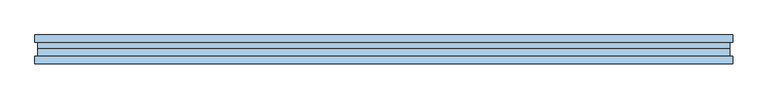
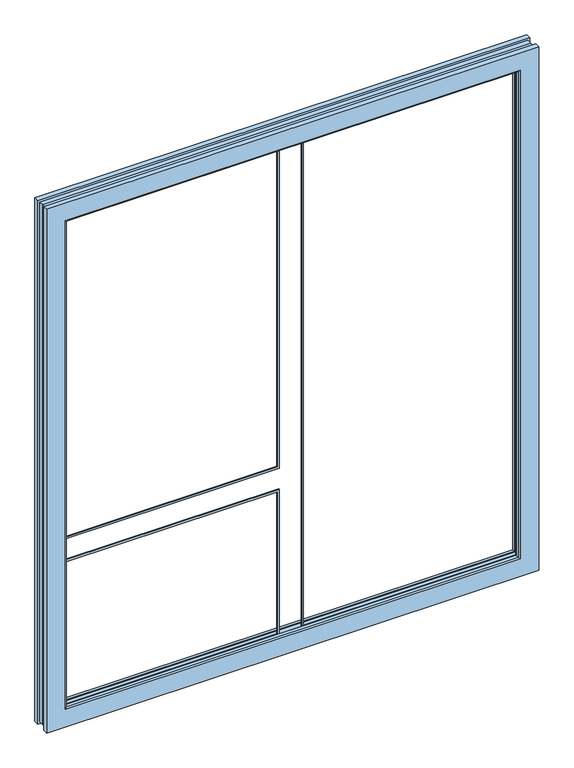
"""IFC4 building model written with IfcOpenShell, lengths in millimetres: window geometry, windowss9000gealanturntiltwindowsublightfixedwindow : windowss9000 2.00 x 2.25."""

from ifc_helpers import new_model, si_unit, frame, origin, place, context, project, spatial, polyline, ellipse_curve, outline, extrude, faceted_brep, source, transform, mapped, element, save
from ifc_brep_helpers import plane_surface, cylinder_surface, advanced_brep


def window_c5311feb(model_context):
    return source(origin(), model_context, "Body", "SolidModel", [
        advanced_brep(
        [(916.0, -106.02771, 3006.0), (916.0, -106.02771, 924.0), (918.5522708, -115.5529143, 921.4477292), (918.5522708, -115.5529143, 3008.5522708), (916.0, -105.0, 3006.0), (916.0, -105.0, 924.0), (946.1, -90.9886714, 3036.1), (946.1, -90.9886714, 893.9), (949.0781998, -105.0, 890.9218002), (949.0781998, -105.0, 3039.0781998), (946.1, -77.5, 3036.1), (946.1, -77.5, 893.9), (992.0, -99.0, 3082.0), (992.0, -99.0, 848.0), (992.0, -77.5, 848.0), (992.0, -77.5, 3082.0), (1000.0, -120.0, 3090.0), (1000.0, -120.0, 840.0), (1000.0, -99.0, 840.0), (1000.0, -99.0, 3090.0), (924.3478258, -120.0, 915.6521742), (924.3478258, -120.0, 3014.3478258), (-916.0, -106.02771, 924.0), (-918.5522708, -115.5529143, 921.4477292), (-916.0, -105.0, 924.0), (-946.1, -90.9886714, 893.9), (-949.0781998, -105.0, 890.9218002), (-946.1, -77.5, 893.9), (-992.0, -99.0, 848.0), (-992.0, -77.5, 848.0), (-1000.0, -120.0, 840.0), (-1000.0, -99.0, 840.0), (-924.3478258, -120.0, 915.6521742), (-916.0, -106.02771, 3006.0), (-918.5522708, -115.5529143, 3008.5522708), (-916.0, -105.0, 3006.0), (-946.1, -90.9886714, 3036.1), (-949.0781998, -105.0, 3039.0781998), (-946.1, -77.5, 3036.1), (-992.0, -99.0, 3082.0), (-992.0, -77.5, 3082.0), (-1000.0, -120.0, 3090.0), (-1000.0, -99.0, 3090.0), (-924.3478258, -120.0, 3014.3478258)],
        [
            (0, 1),
            (1, 2),
            (2, 3),
            (3, 0),
            (4, 5),
            (5, 1),
            (0, 4),
            (6, 7),
            (7, 8),
            (8, 9),
            (9, 6),
            (10, 11),
            (11, 7),
            (6, 10),
            (12, 13),
            (13, 14),
            (14, 15),
            (15, 12),
            (16, 17),
            (17, 18),
            (18, 19),
            (19, 16),
            (2, 20, ellipse_curve(frame((924.3478258, -114.0, 915.6521742), z_axis=(0.7071067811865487, 0.0, 0.7071067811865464), x_axis=(-0.7071067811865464, 0.0, 0.7071067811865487)), 8.4852814, 6.0)),
            (20, 21),
            (21, 3, ellipse_curve(frame((924.3478258, -114.0, 3014.3478258), z_axis=(0.7071067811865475, 0.0, -0.7071067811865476), x_axis=(0.7071067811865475, 0.0, 0.7071067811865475)), 8.4852814, 6.0)),
            (1, 22),
            (22, 23),
            (23, 2),
            (5, 24),
            (24, 22),
            (7, 25),
            (25, 26),
            (26, 8),
            (11, 27),
            (27, 25),
            (13, 28),
            (28, 29),
            (29, 14),
            (17, 30),
            (30, 31),
            (31, 18),
            (23, 32, ellipse_curve(frame((-924.3478258, -114.0, 915.6521742), z_axis=(0.7071067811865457, 0.0, -0.7071067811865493), x_axis=(0.7071067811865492, 0.0, 0.7071067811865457)), 8.4852814, 6.0)),
            (32, 20),
            (22, 33),
            (33, 34),
            (34, 23),
            (24, 35),
            (35, 33),
            (25, 36),
            (36, 37),
            (37, 26),
            (27, 38),
            (38, 36),
            (28, 39),
            (39, 40),
            (40, 29),
            (30, 41),
            (41, 42),
            (42, 31),
            (34, 43, ellipse_curve(frame((-924.3478258, -114.0, 3014.3478258), z_axis=(-0.7071067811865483, 0.0, -0.7071067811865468), x_axis=(0.7071067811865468, 0.0, -0.7071067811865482)), 8.4852814, 6.0)),
            (43, 32),
            (33, 0),
            (3, 34),
            (35, 4),
            (37, 9),
            (36, 6),
            (38, 10),
            (40, 15),
            (39, 12),
            (42, 19),
            (41, 16),
            (43, 21),
        ],
        [
            plane_surface(frame((918.5522708, -115.5529143, 3008.5522708), z_axis=(-0.9659258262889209, -0.25881904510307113, 0.0), x_axis=(0.0, 0.0, -1.0))),
            plane_surface(frame((916.0, -106.02771, 3006.0), z_axis=(-1.0, 0.0, 0.0), x_axis=(0.0, 0.0, -1.0))),
            plane_surface(frame((949.0781998, -105.0, 3039.0781998), z_axis=(-0.9781476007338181, -0.20791169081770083, 0.0), x_axis=(0.0, 0.0, -1.0))),
            plane_surface(frame((946.1, -90.9886714, 3036.1), z_axis=(-1.0, 0.0, 0.0), x_axis=(0.0, 0.0, -1.0))),
            plane_surface(frame((992.0, -77.5, 3082.0), z_axis=(1.0, 0.0, 0.0), x_axis=(0.0, 0.0, -1.0))),
            plane_surface(frame((1000.0, -99.0, 3090.0), z_axis=(1.0, 0.0, 0.0), x_axis=(0.0, 0.0, -1.0))),
            cylinder_surface(frame((924.3478258, -114.0, 3090.0), z_axis=(0.0, 0.0, 1.0), x_axis=(0.0, -1.0, 0.0)), 6.0),
            plane_surface(frame((918.5522708, -115.5529143, 921.4477292), z_axis=(0.0, -0.25881904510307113, 0.9659258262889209), x_axis=(-1.0, 0.0, 0.0))),
            plane_surface(frame((916.0, -106.02771, 924.0), z_axis=(0.0, 0.0, 1.0), x_axis=(-1.0, 0.0, 0.0))),
            plane_surface(frame((949.0781998, -105.0, 890.9218002), z_axis=(0.0, -0.20791169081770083, 0.9781476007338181), x_axis=(-1.0, 0.0, 0.0))),
            plane_surface(frame((946.1, -90.9886714, 893.9), z_axis=(0.0, 0.0, 1.0), x_axis=(-1.0, 0.0, 0.0))),
            plane_surface(frame((992.0, -77.5, 848.0), z_axis=(0.0, 0.0, -1.0), x_axis=(-1.0, 0.0, 0.0))),
            plane_surface(frame((1000.0, -99.0, 840.0), z_axis=(0.0, 0.0, -1.0), x_axis=(-1.0, 0.0, 0.0))),
            cylinder_surface(frame((1000.0, -114.0, 915.6521742), z_axis=(1.0, 0.0, 0.0), x_axis=(0.0, -1.0, 0.0)), 6.0),
            plane_surface(frame((-918.5522708, -115.5529143, 921.4477292), z_axis=(0.9659258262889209, -0.25881904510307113, 0.0), x_axis=(0.0, 0.0, 1.0))),
            plane_surface(frame((-916.0, -106.02771, 924.0), z_axis=(1.0, 0.0, 0.0), x_axis=(0.0, 0.0, 1.0))),
            plane_surface(frame((-949.0781998, -105.0, 890.9218002), z_axis=(0.9781476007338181, -0.20791169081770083, 0.0), x_axis=(0.0, 0.0, 1.0))),
            plane_surface(frame((-946.1, -90.9886714, 893.9), z_axis=(1.0, 0.0, 0.0), x_axis=(0.0, 0.0, 1.0))),
            plane_surface(frame((-992.0, -77.5, 848.0), z_axis=(-1.0, 0.0, 0.0), x_axis=(0.0, 0.0, 1.0))),
            plane_surface(frame((-1000.0, -99.0, 840.0), z_axis=(-1.0, 0.0, 0.0), x_axis=(0.0, 0.0, 1.0))),
            cylinder_surface(frame((-924.3478258, -114.0, 840.0), z_axis=(0.0, 0.0, -1.0), x_axis=(0.0, -1.0, 0.0)), 6.0),
            plane_surface(frame((-918.5522708, -115.5529143, 3008.5522708), z_axis=(0.0, -0.25881904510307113, -0.9659258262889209), x_axis=(1.0, 0.0, 0.0))),
            plane_surface(frame((-916.0, -106.02771, 3006.0), z_axis=(0.0, 0.0, -1.0), x_axis=(1.0, 0.0, 0.0))),
            plane_surface(frame((-917.0, -105.0, 3007.0), z_axis=(0.0, 1.0, 0.0), x_axis=(1.0, 0.0, 0.0))),
            plane_surface(frame((-949.0781998, -105.0, 3039.0781998), z_axis=(0.0, -0.20791169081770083, -0.9781476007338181), x_axis=(1.0, 0.0, 0.0))),
            plane_surface(frame((-946.1, -90.9886714, 3036.1), z_axis=(0.0, 0.0, -1.0), x_axis=(1.0, 0.0, 0.0))),
            plane_surface(frame((-946.1, -77.5, 3036.1), z_axis=(0.0, 1.0, 0.0), x_axis=(1.0, 0.0, 0.0))),
            plane_surface(frame((-992.0, -77.5, 3082.0), z_axis=(0.0, 0.0, 1.0), x_axis=(1.0, 0.0, 0.0))),
            plane_surface(frame((-992.0, -99.0, 3082.0), z_axis=(0.0, 1.0, 0.0), x_axis=(1.0, 0.0, 0.0))),
            plane_surface(frame((-1000.0, -99.0, 3090.0), z_axis=(0.0, 0.0, 1.0), x_axis=(1.0, 0.0, 0.0))),
            plane_surface(frame((-1000.0, -120.0, 3090.0), z_axis=(0.0, -1.0, 0.0), x_axis=(1.0, 0.0, 0.0))),
            cylinder_surface(frame((-1000.0, -114.0, 3014.3478258), z_axis=(-1.0, 0.0, 0.0), x_axis=(0.0, -1.0, 0.0)), 6.0),
        ],
        [
            (0, [[1, 2, 3, 4]]),
            (1, [[5, 6, -1, 7]]),
            (2, [[8, 9, 10, 11]]),
            (3, [[12, 13, -8, 14]]),
            (4, [[15, 16, 17, 18]]),
            (5, [[19, 20, 21, 22]]),
            (6, [[-3, 23, 24, 25]]),
            (7, [[26, 27, 28, -2]]),
            (8, [[29, 30, -26, -6]]),
            (9, [[31, 32, 33, -9]]),
            (10, [[34, 35, -31, -13]]),
            (11, [[36, 37, 38, -16]]),
            (12, [[39, 40, 41, -20]]),
            (13, [[-28, 42, 43, -23]]),
            (14, [[44, 45, 46, -27]]),
            (15, [[47, 48, -44, -30]]),
            (16, [[49, 50, 51, -32]]),
            (17, [[52, 53, -49, -35]]),
            (18, [[54, 55, 56, -37]]),
            (19, [[57, 58, 59, -40]]),
            (20, [[-46, 60, 61, -42]]),
            (21, [[62, -4, 63, -45]]),
            (22, [[64, -7, -62, -48]]),
            (23, [[-10, -33, -51, 65], [-5, -64, -47, -29]]),
            (24, [[66, -11, -65, -50]]),
            (25, [[67, -14, -66, -53]]),
            (26, [[-17, -38, -56, 68], [-12, -67, -52, -34]]),
            (27, [[69, -18, -68, -55]]),
            (28, [[-21, -41, -59, 70], [-15, -69, -54, -36]]),
            (29, [[71, -22, -70, -58]]),
            (30, [[-19, -71, -57, -39], [-24, -43, -61, 72]]),
            (31, [[-63, -25, -72, -60]]),
        ],
    ),
        faceted_brep([(942.0, -37.5, 3032.0), (942.0, -37.5, 898.0), (942.0, -48.75, 898.0), (942.0, -48.75, 3032.0), (1000.0, -37.5, 3090.0), (1000.0, -58.5, 3090.0), (1000.0, -58.5, 840.0), (1000.0, -37.5, 840.0), (992.0, -77.5, 3082.0), (992.0, -77.5, 848.0), (992.0, -58.5, 848.0), (992.0, -58.5, 3082.0), (946.1, -48.75, 3036.1), (946.1, -48.75, 893.9), (946.1, -77.5, 893.9), (946.1, -77.5, 3036.1), (-942.0, -37.5, 898.0), (-942.0, -48.75, 898.0), (-1000.0, -58.5, 840.0), (-1000.0, -37.5, 840.0), (-992.0, -77.5, 848.0), (-992.0, -58.5, 848.0), (-946.1, -48.75, 893.9), (-946.1, -77.5, 893.9), (-942.0, -37.5, 3032.0), (-942.0, -48.75, 3032.0), (-1000.0, -58.5, 3090.0), (-1000.0, -37.5, 3090.0), (-992.0, -77.5, 3082.0), (-992.0, -58.5, 3082.0), (-946.1, -48.75, 3036.1), (-946.1, -77.5, 3036.1)], [[[0, 1, 2, 3]], [[4, 5, 6, 7]], [[8, 9, 10, 11]], [[12, 13, 14, 15]], [[1, 16, 17, 2]], [[6, 18, 19, 7]], [[9, 20, 21, 10]], [[13, 22, 23, 14]], [[16, 24, 25, 17]], [[18, 26, 27, 19]], [[20, 28, 29, 21]], [[22, 30, 31, 23]], [[24, 0, 3, 25]], [[4, 7, 19, 27], [1, 0, 24, 16]], [[26, 5, 4, 27]], [[6, 5, 26, 18], [11, 10, 21, 29]], [[28, 8, 11, 29]], [[9, 8, 28, 20], [15, 14, 23, 31]], [[30, 12, 15, 31]], [[13, 12, 30, 22], [3, 2, 17, 25]]]),
        extrude(outline(polyline([(1635.3074153, -45.3390225), (3014.9709942, -45.3390225), (3014.9709942, -924.9709942), (1635.3074153, -924.9709942), (1635.3074153, -45.3390225)]), holes=[polyline([(3006.5, -53.8100167), (1643.7784096, -53.8100167), (1643.7784096, -916.5), (3006.5, -916.5), (3006.5, -53.8100167)])]), frame((0.0, -104.9982609, 0.0), z_axis=(0.0, 1.0, 0.0), x_axis=(0.0, 0.0, 1.0)), (0.0, 0.0, 1.0), 3.4982609),
        extrude(outline(polyline([(915.0518393, 924.9481607), (3014.9481607, 924.9481607), (3014.9481607, 45.0518393), (915.0518393, 45.0518393), (915.0518393, 924.9481607)]), holes=[polyline([(3006.5, 916.5), (923.5, 916.5), (923.5, 53.5), (3006.5, 53.5), (3006.5, 916.5)])]), frame((0.0, -105.0, 0.0), z_axis=(0.0, 1.0, 0.0), x_axis=(0.0, 0.0, 1.0)), (0.0, 0.0, 1.0), 3.0),
        extrude(outline(polyline([(914.8733205, -45.1833372), (1544.8166628, -45.1833372), (1544.8166628, -925.1266795), (914.8733205, -925.1266795), (914.8733205, -45.1833372)]), holes=[polyline([(1535.6899833, -54.3100167), (924.0, -54.3100167), (924.0, -916.0), (1535.6899833, -916.0), (1535.6899833, -54.3100167)])]), frame((0.0, -105.0015695, 0.0), z_axis=(0.0, 1.0, 0.0), x_axis=(0.0, 0.0, 1.0)), (0.0, 0.0, 1.0), 3.0),
    ])


if __name__ == "__main__":
    model = new_model("IFC4")
    model_context = context("Model", 3, world=origin())
    ifc_project = project(units=[si_unit("LENGTHUNIT", "METRE", prefix="MILLI")], contexts=[model_context])
    site = spatial("IfcSite", under=ifc_project)
    building = spatial("IfcBuilding", under=site)
    placement = place(None, origin())
    window_shape = window_c5311feb(model_context)
    element("IfcWindow", 1, ObjectType="windowss9000gealanturntiltwindowsublightfixedwindow : windowss9000 2.00 x 2.25", at=placement, inside=building, context=model_context, shape_type="MappedRepresentation", body=[
        mapped(window_shape, transform((0.0, 0.0, 0.0), x_axis=(1.0, 0.0, 0.0), y_axis=(0.0, 1.0, 0.0), z_axis=(0.0, 0.0, 1.0))),
    ])
    save(model, "model.ifc")
